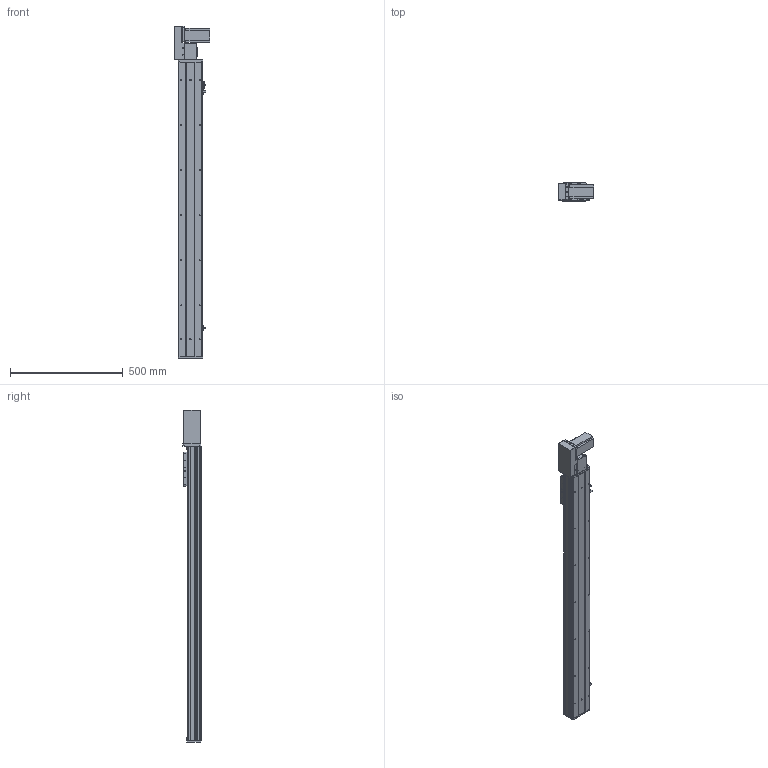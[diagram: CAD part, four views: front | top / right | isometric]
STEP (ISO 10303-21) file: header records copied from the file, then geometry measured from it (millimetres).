
FILE_DESCRIPTION (( 'STEP AP203' ), '1' );
FILE_NAME ('Y10CB-D90-S1050-BL-P400W.STEP', '2020-02-15T07:57:08', ( '微软用户' ), ( '微软中国' ), 'SwSTEP 2.0', 'SolidWorks 2017', '' );
FILE_SCHEMA (( 'CONFIG_CONTROL_DESIGN' ));
Length unit declared in the file: millimetre
Products named in the file (18): 10CB-詩湍-; Y10B-々湍喘謫眊楊擘啣--; Y10CB- 掛极耜裔啣-毀---; Y10B--々湍喘謫眊--666; Y10C---詩湍揤啣; Y10B-耜蚾蟀諉啣----; 10CB9-掛极; 0B-萇儂楊擘啣; 10CB-耜裔; san松下电机400不带刹车----; Y135C-陔俋离換覜結え-; 0B-源倛裔啣; Y100-135俋离換覜ん--; 0B-埴倛裔啣; 0CB-雄赽釱---; Y10CB-D90-S1050-BL-P400W; Y俋欶BR----; 0Cb-俋欶---
Assembly tree (21 placements, depth 2):
  Y10CB-D90-S1050-BL-P400W
    0CB-雄赽釱---
    0Cb-俋欶---
    Y10B-々湍喘謫眊楊擘啣--
    Y10B--々湍喘謫眊--666
    Y10B-耜蚾蟀諉啣----
    0B-萇儂楊擘啣
    san松下电机400不带刹车----
    0B-源倛裔啣
    0B-埴倛裔啣
    Y俋欶BR----
    10CB-詩湍-
    Y10CB- 掛极耜裔啣-毀---  x2
    Y10C---詩湍揤啣  x2
    10CB9-掛极
    10CB-耜裔
    Y135C-陔俋离換覜結え-
    Y100-135俋离換覜ん--  x3
Bounding box: 157.5 x 80.5 x 1472.5 mm (x, y, z)
Volume: 3224067.6 mm3; surface area: 1456631.4 mm2
Topology: 21 solids, 21 shells, 990 faces, 2643 edges, 1730 vertices
Faces by surface type: cylinder 487, plane 479, cone 24
Entity records: 30904 total; most frequent: CARTESIAN_POINT 5469, DIRECTION 4994, ORIENTED_EDGE 4756, EDGE_CURVE 2378, AXIS2_PLACEMENT_3D 1785, VERTEX_POINT 1556, LINE 1424, VECTOR 1424
